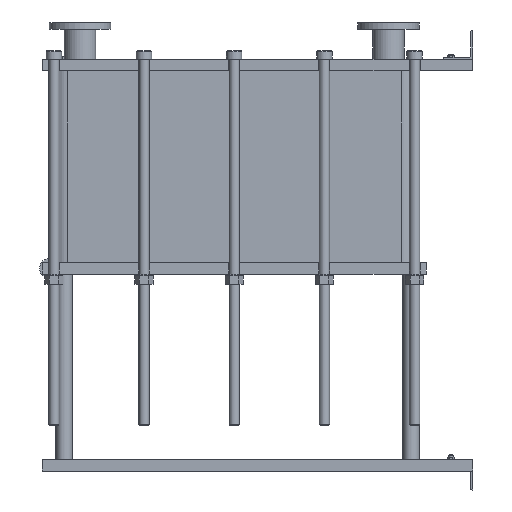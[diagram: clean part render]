
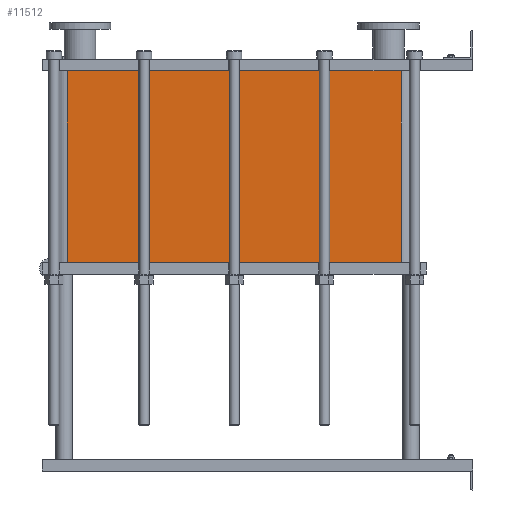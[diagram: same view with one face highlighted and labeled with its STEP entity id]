
A CAD part, left-side view. The second image highlights one B-rep face of the part: STEP entity #11512.
In plain terms, the highlighted planar face has unit normal (-1, 0, 0).
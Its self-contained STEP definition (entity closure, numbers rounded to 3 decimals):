
#1129=LINE('',#23232,#2102);
#1130=LINE('',#23236,#2103);
#1131=LINE('',#23238,#2104);
#1132=LINE('',#23239,#2105);
#2102=VECTOR('',#15887,10.);
#2103=VECTOR('',#15892,10.);
#2104=VECTOR('',#15893,10.);
#2105=VECTOR('',#15894,10.);
#3267=FACE_OUTER_BOUND('',#4093,.T.);
#4093=EDGE_LOOP('',(#10103,#10104,#10105,#10106));
#5642=VERTEX_POINT('',#23229);
#5643=VERTEX_POINT('',#23231);
#5644=VERTEX_POINT('',#23235);
#5645=VERTEX_POINT('',#23237);
#7159=EDGE_CURVE('',#5643,#5642,#1129,.T.);
#7161=EDGE_CURVE('',#5642,#5644,#1130,.T.);
#7162=EDGE_CURVE('',#5645,#5644,#1131,.T.);
#7163=EDGE_CURVE('',#5645,#5643,#1132,.T.);
#10103=ORIENTED_EDGE('',*,*,#7161,.T.);
#10104=ORIENTED_EDGE('',*,*,#7162,.F.);
#10105=ORIENTED_EDGE('',*,*,#7163,.T.);
#10106=ORIENTED_EDGE('',*,*,#7159,.T.);
#10857=PLANE('',#12751);
#11512=ADVANCED_FACE('',(#3267),#10857,.T.);
#12751=AXIS2_PLACEMENT_3D('',#23234,#15890,#15891);
#15887=DIRECTION('',(0.,0.,-1.));
#15890=DIRECTION('center_axis',(-1.,0.,0.));
#15891=DIRECTION('ref_axis',(0.,1.,0.));
#15892=DIRECTION('',(0.,-1.,0.));
#15893=DIRECTION('',(0.,0.,-1.));
#15894=DIRECTION('',(0.,1.,0.));
#23229=CARTESIAN_POINT('',(-200.,1414.,-669.3));
#23231=CARTESIAN_POINT('',(-200.,1414.,0.));
#23232=CARTESIAN_POINT('',(-200.,1414.,0.));
#23234=CARTESIAN_POINT('Origin',(-200.,248.,0.));
#23235=CARTESIAN_POINT('',(-200.,248.,-669.3));
#23236=CARTESIAN_POINT('',(-200.,539.5,-669.3));
#23237=CARTESIAN_POINT('',(-200.,248.,0.));
#23238=CARTESIAN_POINT('',(-200.,248.,0.));
#23239=CARTESIAN_POINT('',(-200.,248.,0.));
